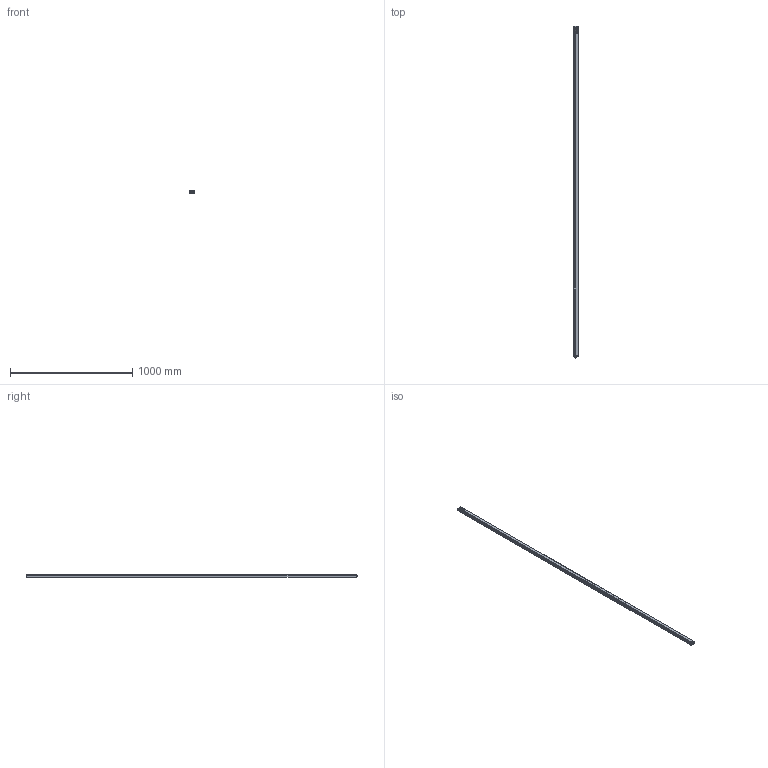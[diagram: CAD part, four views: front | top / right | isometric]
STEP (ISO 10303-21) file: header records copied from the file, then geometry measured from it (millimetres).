
FILE_DESCRIPTION(/* description */ (''),/* implementation_level */ '2;1');
FILE_NAME(/* name */ 'C:\Users\andre\SynologyDrive\Optoscan\Libreria Componenti\00 - Barriere\Polaris sorgente\Polaris_2700_TX.stp',/* time_stamp */ '2021-06-04T11:30:43+02:00',/* author */ ('andre'),/* organization */ (''),/* preprocessor_version */ 'ST-DEVELOPER v18',/* originating_system */ 'Autodesk Inventor 2020',/* authorisation */ '');
FILE_SCHEMA (('AUTOMOTIVE_DESIGN { 1 0 10303 214 3 1 1 }'));
Length unit declared in the file: millimetre
Products named in the file (1): Polaris_2700_TX
Bounding box: 40.5 x 2720.8 x 20.75 mm (x, y, z)
Volume: 533287.9 mm3; surface area: 707001.5 mm2
Topology: 1 solids, 1 shells, 722 faces, 2004 edges, 1288 vertices
Faces by surface type: plane 327, cylinder 203, bspline 115, torus 63, cone 8, sphere 6
Full cylindrical faces by diameter (mm): 1 x8, 2.5 x4, 3 x4, 3.5 x4, 5.5 x4, 8 x1, 10.5 x2, 11.75 x9, 12 x1, 12.3 x2, 14.5 x1, 16.7 x1, 17.5 x1
Entity records: 29853 total; most frequent: CARTESIAN_POINT 11151, ORIENTED_EDGE 3994, DIRECTION 3433, EDGE_CURVE 1997, VERTEX_POINT 1289, AXIS2_PLACEMENT_3D 1187, LINE 1059, VECTOR 1059
